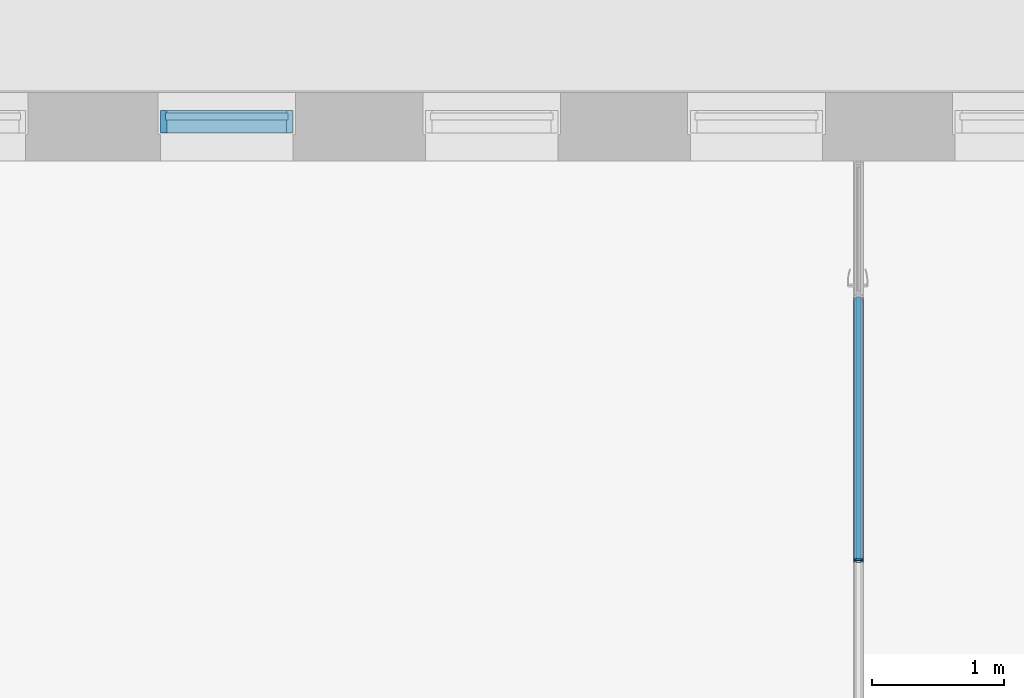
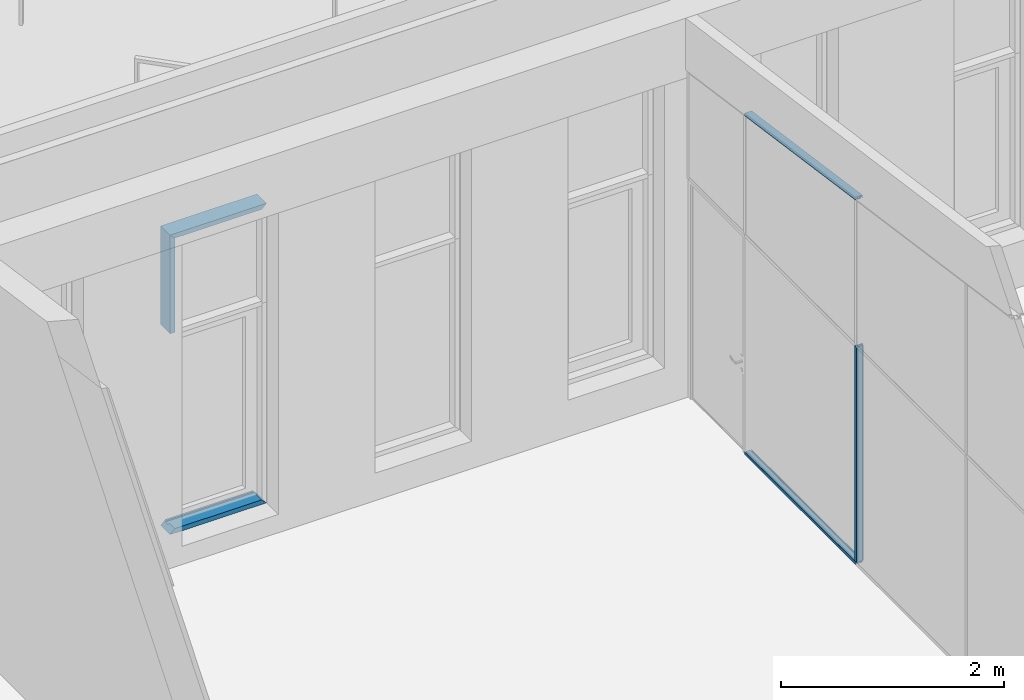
# One storey, part 20 of 246: 6 members, 2 elements without a shape of their own.
"""IFC2X3 building model written with IfcOpenShell, lengths in millimetres."""

from ifc_helpers import new_model, entity, si_unit, converted_unit, derived_unit, money_unit, direction, frame, origin_with_axes, place, context, subcontext, project, spatial, faceted_brep, source, transform, mapped, material, material_list, type_object, element, aggregate, save


model = new_model("IFC2X3")

# Units and contexts
model_context = context("Model", 3, precision=0.01, world=origin_with_axes(), true_north=direction((0.0, 1.0)))
body_context = subcontext(model_context, "Body", "Model", "MODEL_VIEW")
ifc_project = project(units=[si_unit("LENGTHUNIT", "METRE", prefix="MILLI"), si_unit("AREAUNIT", "SQUARE_METRE"), si_unit("VOLUMEUNIT", "CUBIC_METRE"), converted_unit("PLANEANGLEUNIT", "DEGREE", entity("IfcPlaneAngleMeasure", 0.0174532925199), si_unit("PLANEANGLEUNIT", "RADIAN"), dimensions=[0, 0, 0, 0, 0, 0, 0]), si_unit("SOLIDANGLEUNIT", "STERADIAN"), money_unit("EUR"), converted_unit("TIMEUNIT", "Year", entity("IfcTimeMeasure", 31556926.0), si_unit("TIMEUNIT", "SECOND"), dimensions=[0, 0, 1, 0, 0, 0, 0]), si_unit("MASSUNIT", "GRAM", prefix="KILO"), si_unit("THERMODYNAMICTEMPERATUREUNIT", "DEGREE_CELSIUS"), si_unit("LUMINOUSINTENSITYUNIT", "LUMEN"), si_unit("ENERGYUNIT", "JOULE", prefix="MEGA"), derived_unit("THERMALCONDUCTANCEUNIT", [(si_unit("POWERUNIT", "WATT"), 1), (si_unit("LENGTHUNIT", "METRE"), -1), (si_unit("THERMODYNAMICTEMPERATUREUNIT", "KELVIN"), -1)]), derived_unit("SPECIFICHEATCAPACITYUNIT", [(si_unit("ENERGYUNIT", "JOULE"), 1), (si_unit("MASSUNIT", "GRAM", prefix="KILO"), -1), (si_unit("THERMODYNAMICTEMPERATUREUNIT", "KELVIN"), -1)]), derived_unit("MASSDENSITYUNIT", [(si_unit("MASSUNIT", "GRAM", prefix="KILO"), 1), (si_unit("VOLUMEUNIT", "CUBIC_METRE"), -1)])], contexts=[model_context])

# Site, building, storey
site_placement = place(None, origin_with_axes())
site = spatial("IfcSite", under=ifc_project, at=site_placement, Name="L.Koidula tn 11b", CompositionType="ELEMENT")
building_placement = place(site_placement, origin_with_axes())
building = spatial("IfcBuilding", under=site, at=building_placement, Name="Rakvere Riigigümnaasium", CompositionType="ELEMENT")
storey_placement = place(building_placement, origin_with_axes())
storey = spatial("IfcBuildingStorey", under=building, at=storey_placement, Name="1.korrus 0,00", CompositionType="ELEMENT", Elevation=0.0)

# Curtain wall, members
curtain_wall_type = type_object("IfcCurtainWallType", Name="Curtain Wall Type", PredefinedType="NOTDEFINED")
curtain_wall_1_placement = place(storey_placement, frame((28069.5354311, 71934.4519938, 200.0), z_axis=(0.0, 0.0, 1.0), x_axis=(1.0, 0.0, 0.0)))
curtain_wall_1 = element("IfcCurtainWall", 1, at=curtain_wall_1_placement, inside=storey, type_object=curtain_wall_type, Name="KLF-08-04")
ifc_material_1 = material(Name="Alumiiniumprofiil (RAL 7021)")
member_type_1 = type_object("IfcMemberType", Name="Boundary Frame 50 x 170", PredefinedType="MULLION")
shared_shape_1 = source(origin_with_axes(), body_context, "Body", "Brep", [
    faceted_brep([(37.0, -26.0, 1043.00003141), (37.0, 26.0, 1043.00003141), (50.0, 26.0, 1030.00003141), (50.0, 46.0, 1030.00003141), (0.0, 46.0, 1080.00003141), (0.0, -124.0, 1080.00003141), (50.0, -124.0, 1030.00003141), (50.0, -26.0, 1030.00003141), (37.0, -26.0, 0.0), (37.0, 26.0, 0.0), (50.0, 26.0, 0.0), (50.0, 46.0, 0.0), (0.0, 46.0, 0.0), (0.0, -124.0, 0.0), (50.0, -124.0, 0.0), (50.0, -26.0, 0.0)], [[[0, 1, 2, 3, 4, 5, 6, 7]], [[1, 0, 8, 9]], [[10, 2, 1, 9]], [[2, 10, 11, 3]], [[12, 4, 3, 11]], [[13, 5, 4, 12]], [[14, 6, 5, 13]], [[15, 7, 6, 14]], [[0, 7, 15, 8]], [[8, 15, 14, 13, 12, 11, 10, 9]]]),
])
member_1_placement = place(curtain_wall_1_placement, frame((-500.000022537, 0.0, 2200.00007713), z_axis=(0.0, 0.0, 1.0), x_axis=(-1.0, 0.0, 0.0)))
member_1 = element("IfcMember", 2, at=member_1_placement, type_object=member_type_1, material=ifc_material_1, Name="KLF-08-47-Profiilid", ObjectType="MULLION", context=body_context, shape_type="MappedRepresentation", body=[
    mapped(shared_shape_1, transform((0.0, 0.0, 0.0), x_axis=(-1.0, 0.0, 0.0), y_axis=(0.0, -1.0, 0.0), z_axis=(0.0, 0.0, 1.0))),
])
shared_shape_2 = source(origin_with_axes(), body_context, "Body", "Brep", [
    faceted_brep([(-37.0, -26.0, 963.000201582), (-50.0, -26.0, 950.00020105), (-50.0, -124.0, 950.00020105), (0.0, -124.0, 1000.0002031), (0.0, 46.0, 1000.0002031), (-50.0, 46.0, 950.00020105), (-50.0, 26.0, 950.00020105), (-37.0, 26.0, 963.000201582), (-37.0, -26.0, 37.0), (-50.0, -26.0, 50.0), (-50.0, -124.0, 50.0), (0.0, -124.0, 0.0), (0.0, 46.0, 0.0), (-50.0, 46.0, 50.0), (-50.0, 26.0, 50.0), (-37.0, 26.0, 37.0)], [[[0, 1, 2, 3, 4, 5, 6, 7]], [[0, 8, 9, 1]], [[9, 10, 2, 1]], [[2, 10, 11, 3]], [[3, 11, 12, 4]], [[4, 12, 13, 5]], [[6, 5, 13, 14]], [[14, 15, 7, 6]], [[7, 15, 8, 0]], [[8, 15, 14, 13, 12, 11, 10, 9]]]),
])
member_2_placement = place(curtain_wall_1_placement, frame((500.000022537, 0.0, 3279.99997211), z_axis=(-1.0, 0.0, 0.0), x_axis=(0.0, 0.0, -1.0)))
member_2 = element("IfcMember", 3, at=member_2_placement, type_object=member_type_1, material=ifc_material_1, Name="KLF-08-46-Profiilid", ObjectType="MULLION", context=body_context, shape_type="MappedRepresentation", body=[
    mapped(shared_shape_2, transform((0.0, 0.0, 0.0), x_axis=(-1.0, 0.0, 0.0), y_axis=(0.0, -1.0, 0.0), z_axis=(0.0, 0.0, 1.0))),
])
member_3_placement = place(curtain_wall_1_placement, frame((-500.000022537, 0.0, 0.0), z_axis=(1.0, 0.0, 0.0), x_axis=(0.0, 0.0, 1.0)))
member_3 = element("IfcMember", 4, at=member_3_placement, type_object=member_type_1, material=ifc_material_1, Name="KLF-08-43-Profiilid", ObjectType="MULLION", context=body_context, shape_type="MappedRepresentation", body=[
    mapped(shared_shape_2, transform((0.0, 0.0, 0.0), x_axis=(-1.0, 0.0, 0.0), y_axis=(0.0, -1.0, 0.0), z_axis=(0.0, 0.0, 1.0))),
])
aggregate(curtain_wall_1, [member_1, member_2, member_3])

curtain_wall_2_placement = place(storey_placement, frame((32835.0202258, 67589.2016838, 0.0), z_axis=(0.0, 0.0, 1.0), x_axis=(1.0, 0.0, 0.0)))
curtain_wall_2 = element("IfcCurtainWall", 5, at=curtain_wall_2_placement, inside=storey, type_object=curtain_wall_type, Name="SKLF-02")
ifc_material_2 = material(Name="Klaasvill")
ifc_material_3 = material(Name="Teras RAL7012")
ifc_material_list = material_list([ifc_material_2, ifc_material_3])
member_type_2 = type_object("IfcMemberType", Name="Boundary Frame 30 x 42", PredefinedType="MULLION")
shared_shape_3 = source(origin_with_axes(), body_context, "Body", "Brep", [
    faceted_brep([(7.49999990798, 15.000000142, -1.53444652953e-06), (13.8499999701, 15.000000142, -1.53444652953e-06), (13.8499999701, 15.000000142, 2007.53714433), (7.49999990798, 15.000000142, 2007.53714433), (7.49999990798, 29.0161444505, -1.53444652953e-06), (13.8499999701, 29.0161444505, -1.53444652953e-06), (13.8499999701, 29.0161444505, 2007.53714433), (7.49999990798, 29.0161444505, 2007.53714433)], [[[0, 1, 2, 3]], [[0, 4, 5, 1]], [[1, 5, 6, 2]], [[3, 2, 6, 7]], [[4, 0, 3, 7]], [[5, 4, 7, 6]]]),
    faceted_brep([(24.987414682, 29.0161444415, -1.53444652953e-06), (25.004489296, 27.0307503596, -1.53444652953e-06), (25.004489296, 27.0307503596, 2007.53714433), (24.987414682, 29.0161444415, 2007.53714433), (28.5126239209, 29.0161444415, -1.53444652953e-06), (28.7655837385, 28.0385325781, -1.53444652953e-06), (28.4955493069, 27.0307503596, -1.53444652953e-06), (27.75780152, 26.2930025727, -1.53444652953e-06), (26.7500193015, 26.0229681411, -1.53444652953e-06), (25.742237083, 26.2930025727, -1.53444652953e-06), (25.742237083, 26.2930025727, 2007.53714433), (26.7500193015, 26.0229681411, 2007.53714433), (27.75780152, 26.2930025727, 2007.53714433), (28.4955493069, 27.0307503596, 2007.53714433), (28.7655837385, 28.0385325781, 2007.53714433), (28.5126239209, 29.0161444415, 2007.53714433)], [[[0, 1, 2, 3]], [[0, 4, 5, 6, 7, 8, 9, 1]], [[1, 9, 10, 2]], [[3, 2, 10, 11, 12, 13, 14, 15]], [[4, 0, 3, 15]], [[5, 4, 15, 14]], [[6, 5, 14, 13]], [[7, 6, 13, 12]], [[8, 7, 12, 11]], [[9, 8, 11, 10]]]),
    faceted_brep([(7.49999990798, -24.9999997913, -1.53444652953e-06), (7.49999990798, -39.0161445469, -1.53444652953e-06), (7.49999990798, -39.0161445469, 2007.53714433), (7.49999990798, -24.9999997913, 2007.53714433), (13.8499999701, -24.9999997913, -1.53444652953e-06), (13.8499999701, -39.0161445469, -1.53444652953e-06), (13.8499999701, -39.0161445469, 2007.53714433), (13.8499999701, -24.9999997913, 2007.53714433)], [[[0, 1, 2, 3]], [[0, 4, 5, 1]], [[1, 5, 6, 2]], [[3, 2, 6, 7]], [[4, 0, 3, 7]], [[5, 4, 7, 6]]]),
    faceted_brep([(25.004489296, -37.0307503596, -1.53444652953e-06), (24.987414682, -39.0161444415, -1.53444652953e-06), (24.987414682, -39.0161444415, 2007.53714433), (25.004489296, -37.0307503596, 2007.53714433), (25.742237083, -36.2930025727, -1.53444652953e-06), (26.7500193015, -36.0229681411, -1.53444652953e-06), (27.75780152, -36.2930025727, -1.53444652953e-06), (28.4955493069, -37.0307503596, -1.53444652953e-06), (28.7655837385, -38.0385325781, -1.53444652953e-06), (28.5126239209, -39.0161444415, -1.53444652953e-06), (28.5126239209, -39.0161444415, 2007.53714433), (28.7655837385, -38.0385325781, 2007.53714433), (28.4955493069, -37.0307503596, 2007.53714433), (27.75780152, -36.2930025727, 2007.53714433), (26.7500193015, -36.0229681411, 2007.53714433), (25.742237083, -36.2930025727, 2007.53714433)], [[[0, 1, 2, 3]], [[0, 4, 5, 6, 7, 8, 9, 1]], [[1, 9, 10, 2]], [[3, 2, 10, 11, 12, 13, 14, 15]], [[4, 0, 3, 15]], [[5, 4, 15, 14]], [[6, 5, 14, 13]], [[7, 6, 13, 12]], [[8, 7, 12, 11]], [[9, 8, 11, 10]]]),
    faceted_brep([(0.0, -22.0000000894, -1.53444652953e-06), (29.5999996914, -22.0000000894, -1.53444652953e-06), (29.5999996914, -22.0000000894, 2007.53714433), (0.0, -22.0000000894, 2007.53714433), (0.0, 12.0000000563, -1.53444652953e-06), (29.5999996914, 12.0000000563, -1.53444652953e-06), (1.9999999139, 10.0000001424, -1.53444652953e-06), (1.9999999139, -20.0000001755, -1.53444652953e-06), (18.7999996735, -20.0000001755, -1.53444652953e-06), (18.7999996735, 10.0000001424, -1.53444652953e-06), (29.5999996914, 12.0000000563, 2007.53714433), (0.0, 12.0000000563, 2007.53714433), (1.9999999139, 10.0000001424, 2007.53714433), (18.7999996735, 10.0000001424, 2007.53714433), (18.7999996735, -20.0000001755, 2007.53714433), (1.9999999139, -20.0000001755, 2007.53714433)], [[[0, 1, 2, 3]], [[0, 4, 5, 1], [6, 7, 8, 9]], [[1, 5, 10, 2]], [[3, 2, 10, 11], [12, 13, 14, 15]], [[4, 0, 3, 11]], [[5, 4, 11, 10]], [[7, 6, 12, 15]], [[8, 7, 15, 14]], [[9, 8, 14, 13]], [[6, 9, 13, 12]]]),
    faceted_brep([(0.0, 12.0, -1.53444652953e-06), (29.5999996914, 12.0000000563, -1.53444652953e-06), (29.5999996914, 12.0000000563, 2007.53714433), (0.0, 12.0, 2007.53714433), (0.0, 32.0, -1.53444652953e-06), (30.0000193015, 32.0, -1.53444652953e-06), (30.0000193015, 29.0161444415, -1.53444652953e-06), (28.5126239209, 29.0161444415, -1.53444652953e-06), (24.987414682, 29.0161444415, -1.53444652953e-06), (13.8499999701, 29.0161444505, -1.53444652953e-06), (7.49999999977, 29.0161444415, -1.53444652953e-06), (7.49999999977, 15.0, -1.53444652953e-06), (13.8499999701, 15.000000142, -1.53444652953e-06), (30.0000193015, 15.0, -1.53444652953e-06), (30.0000193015, 12.0, -1.53444652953e-06), (30.0000193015, 12.0, 2007.53714433), (30.0000193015, 15.0, 2007.53714433), (13.8499999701, 15.000000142, 2007.53714433), (7.49999999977, 15.0, 2007.53714433), (7.49999999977, 29.0161444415, 2007.53714433), (13.8499999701, 29.0161444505, 2007.53714433), (24.987414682, 29.0161444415, 2007.53714433), (28.5126239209, 29.0161444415, 2007.53714433), (30.0000193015, 29.0161444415, 2007.53714433), (30.0000193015, 32.0, 2007.53714433), (0.0, 32.0, 2007.53714433)], [[[0, 1, 2, 3]], [[0, 4, 5, 6, 7, 8, 9, 10, 11, 12, 13, 14, 1]], [[1, 14, 15, 2]], [[3, 2, 15, 16, 17, 18, 19, 20, 21, 22, 23, 24, 25]], [[4, 0, 3, 25]], [[5, 4, 25, 24]], [[6, 5, 24, 23]], [[7, 6, 23, 22]], [[8, 7, 22, 21]], [[9, 8, 21, 20]], [[10, 9, 20, 19]], [[11, 10, 19, 18]], [[12, 11, 18, 17]], [[13, 12, 17, 16]], [[14, 13, 16, 15]]]),
    faceted_brep([(0.0, -22.0, -1.53444652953e-06), (0.0, -42.0, -1.53444652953e-06), (0.0, -42.0, 2007.53714433), (0.0, -22.0, 2007.53714433), (29.5999996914, -22.0000000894, -1.53444652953e-06), (30.0000193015, -22.0, -1.53444652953e-06), (30.0000193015, -25.0, -1.53444652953e-06), (13.8499999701, -24.9999997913, -1.53444652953e-06), (7.49999999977, -25.0, -1.53444652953e-06), (7.49999999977, -39.0161444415, -1.53444652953e-06), (13.8499999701, -39.0161445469, -1.53444652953e-06), (24.987414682, -39.0161444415, -1.53444652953e-06), (28.5126239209, -39.0161444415, -1.53444652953e-06), (30.0000193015, -39.0161444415, -1.53444652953e-06), (30.0000193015, -42.0, -1.53444652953e-06), (30.0000193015, -42.0, 2007.53714433), (30.0000193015, -39.0161444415, 2007.53714433), (28.5126239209, -39.0161444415, 2007.53714433), (24.987414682, -39.0161444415, 2007.53714433), (13.8499999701, -39.0161445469, 2007.53714433), (7.49999999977, -39.0161444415, 2007.53714433), (7.49999999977, -25.0, 2007.53714433), (13.8499999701, -24.9999997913, 2007.53714433), (30.0000193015, -25.0, 2007.53714433), (30.0000193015, -22.0, 2007.53714433), (29.5999996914, -22.0000000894, 2007.53714433)], [[[0, 1, 2, 3]], [[0, 4, 5, 6, 7, 8, 9, 10, 11, 12, 13, 14, 1]], [[1, 14, 15, 2]], [[3, 2, 15, 16, 17, 18, 19, 20, 21, 22, 23, 24, 25]], [[4, 0, 3, 25]], [[5, 4, 25, 24]], [[6, 5, 24, 23]], [[7, 6, 23, 22]], [[8, 7, 22, 21]], [[9, 8, 21, 20]], [[10, 9, 20, 19]], [[11, 10, 19, 18]], [[12, 11, 18, 17]], [[13, 12, 17, 16]], [[14, 13, 16, 15]]]),
])
member_4_placement = place(curtain_wall_2_placement, frame((0.0, 993.75, 4019.58660947), z_axis=(0.0, 0.99001904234, -0.140933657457), x_axis=(0.0, -0.140933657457, -0.99001904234)))
member_4 = element("IfcMember", 6, at=member_4_placement, type_object=member_type_2, material=ifc_material_list, Name="SKLF-17-raam", ObjectType="MULLION", context=body_context, shape_type="MappedRepresentation", body=[
    mapped(shared_shape_3, transform((0.0, 0.0, 0.0))),
])
member_type_3 = type_object("IfcMemberType", Name="Siseklaasfassaad-Vaheprofiil-Doubleline30 34 x 42", PredefinedType="MULLION")
shared_shape_4 = source(origin_with_axes(), body_context, "Body", "Brep", [
    faceted_brep([(15.5126239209, 29.0161444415, 2384.48737608), (15.7655837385, 28.0385325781, 2384.23441626), (15.7655837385, 28.0385325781, 30.0000193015), (15.5126239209, 29.0161444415, 30.0000193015), (15.4955493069, 27.0307503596, 2384.50445069), (11.987414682, 29.0161444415, 2388.01258532), (12.004489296, 27.0307503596, 2387.9955107), (12.742237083, 26.2930025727, 2387.25776292), (13.7500193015, 26.0229681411, 2386.2499807), (14.75780152, 26.2930025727, 2385.24219848), (15.4955493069, 27.0307503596, 30.0000193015), (14.75780152, 26.2930025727, 30.0000193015), (13.7500193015, 26.0229681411, 30.0000193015), (12.742237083, 26.2930025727, 30.0000193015), (12.004489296, 27.0307503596, 30.0000193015), (11.987414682, 29.0161444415, 30.0000193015)], [[[0, 1, 2, 3]], [[4, 1, 0, 5, 6, 7, 8, 9]], [[1, 4, 10, 2]], [[2, 10, 11, 12, 13, 14, 15, 3]], [[5, 0, 3, 15]], [[6, 5, 15, 14]], [[7, 6, 14, 13]], [[8, 7, 13, 12]], [[9, 8, 12, 11]], [[4, 9, 11, 10]]]),
    faceted_brep([(15.4955493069, -37.0307503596, 2384.50445069), (15.5126239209, -39.0161444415, 2384.48737608), (15.5126239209, -39.0161444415, 30.0000193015), (15.4955493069, -37.0307503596, 30.0000193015), (11.987414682, -39.0161444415, 2388.01258532), (14.75780152, -36.2930025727, 2385.24219848), (13.7500193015, -36.0229681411, 2386.2499807), (12.742237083, -36.2930025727, 2387.25776292), (12.004489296, -37.0307503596, 2387.9955107), (11.7344548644, -38.0385325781, 2388.26554514), (11.987414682, -39.0161444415, 30.0000193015), (11.7344548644, -38.0385325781, 30.0000193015), (12.004489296, -37.0307503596, 30.0000193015), (12.742237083, -36.2930025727, 30.0000193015), (13.7500193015, -36.0229681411, 30.0000193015), (14.75780152, -36.2930025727, 30.0000193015)], [[[0, 1, 2, 3]], [[4, 1, 0, 5, 6, 7, 8, 9]], [[1, 4, 10, 2]], [[2, 10, 11, 12, 13, 14, 15, 3]], [[5, 0, 3, 15]], [[6, 5, 15, 14]], [[7, 6, 14, 13]], [[8, 7, 13, 12]], [[9, 8, 12, 11]], [[4, 9, 11, 10]]]),
    faceted_brep([(-11.987414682, 29.0161444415, 2388.01258532), (-11.7344548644, 28.0385325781, 2388.26554514), (-11.7344548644, 28.0385325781, 30.0000193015), (-11.987414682, 29.0161444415, 30.0000193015), (-12.004489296, 27.0307503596, 2387.9955107), (-15.7655837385, 28.0385325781, 2384.23441626), (-15.4955493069, 27.0307503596, 2384.50445069), (-14.75780152, 26.2930025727, 2385.24219848), (-13.7500193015, 26.0229681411, 2386.2499807), (-12.742237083, 26.2930025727, 2387.25776292), (-12.004489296, 27.0307503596, 30.0000193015), (-12.742237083, 26.2930025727, 30.0000193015), (-13.7500193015, 26.0229681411, 30.0000193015), (-14.75780152, 26.2930025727, 30.0000193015), (-15.4955493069, 27.0307503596, 30.0000193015), (-15.7655837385, 28.0385325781, 30.0000193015)], [[[0, 1, 2, 3]], [[4, 1, 0, 5, 6, 7, 8, 9]], [[1, 4, 10, 2]], [[2, 10, 11, 12, 13, 14, 15, 3]], [[5, 0, 3, 15]], [[6, 5, 15, 14]], [[7, 6, 14, 13]], [[8, 7, 13, 12]], [[9, 8, 12, 11]], [[4, 9, 11, 10]]]),
    faceted_brep([(-12.004489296, -37.0307503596, 2387.9955107), (-11.7344548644, -38.0385325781, 2388.26554514), (-11.7344548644, -38.0385325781, 30.0000193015), (-12.004489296, -37.0307503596, 30.0000193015), (-11.987414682, -39.0161444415, 2388.01258532), (-12.742237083, -36.2930025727, 2387.25776292), (-13.7500193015, -36.0229681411, 2386.2499807), (-14.75780152, -36.2930025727, 2385.24219848), (-15.4955493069, -37.0307503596, 2384.50445069), (-15.5126239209, -39.0161444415, 2384.48737608), (-11.987414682, -39.0161444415, 30.0000193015), (-15.5126239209, -39.0161444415, 30.0000193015), (-15.4955493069, -37.0307503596, 30.0000193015), (-14.75780152, -36.2930025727, 30.0000193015), (-13.7500193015, -36.0229681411, 30.0000193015), (-12.742237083, -36.2930025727, 30.0000193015)], [[[0, 1, 2, 3]], [[4, 1, 0, 5, 6, 7, 8, 9]], [[1, 4, 10, 2]], [[2, 10, 11, 12, 13, 14, 15, 3]], [[5, 0, 3, 15]], [[6, 5, 15, 14]], [[7, 6, 14, 13]], [[8, 7, 13, 12]], [[9, 8, 12, 11]], [[4, 9, 11, 10]]]),
    faceted_brep([(4.0000003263, -20.0000001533, 2395.99999967), (4.0000003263, 10.0000001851, 2395.99999967), (4.0000003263, 10.0000001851, 30.0000193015), (4.0000003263, -20.0000001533, 30.0000193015), (14.8000003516, -22.0000000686, 2385.19999965), (14.8000003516, 12.0000001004, 2385.19999965), (0.0, 12.0000001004, 2400.0), (0.0, 10.0000001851, 2400.0), (0.0, -20.0000001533, 2400.0), (0.0, -22.0000000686, 2400.0), (-12.8000002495, 10.0000001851, 2387.19999975), (-12.8000002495, 10.0000001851, 30.0000193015), (14.8000003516, -22.0000000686, 30.0000193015), (-3.05044456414e-07, -22.0000000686, 30.0000193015), (-14.8000001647, -22.0000000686, 30.0000193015), (-14.8000001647, 12.0000001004, 30.0000193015), (-3.05044456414e-07, 12.0000001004, 30.0000193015), (14.8000003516, 12.0000001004, 30.0000193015), (-12.8000002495, -20.0000001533, 30.0000193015), (-12.8000002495, -20.0000001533, 2387.19999975), (-14.8000001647, 12.0000001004, 2385.19999984), (-14.8000001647, -22.0000000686, 2385.19999984)], [[[0, 1, 2, 3]], [[4, 5, 6, 7, 1, 0, 8, 9]], [[7, 10, 11, 2, 1]], [[12, 13, 14, 15, 16, 17], [2, 11, 18, 3]], [[8, 0, 3, 18, 19]], [[5, 4, 12, 17]], [[6, 5, 17, 16]], [[6, 20, 21, 9, 8, 19, 10, 7]], [[4, 9, 13, 12]], [[10, 19, 18, 11]], [[9, 21, 14, 13]], [[21, 20, 15, 14]], [[20, 6, 16, 15]]]),
    faceted_brep([(0.0, 32.0000000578, 2400.0), (17.0000193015, 32.0000000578, 2382.9999807), (17.0000193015, 32.0000000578, 30.0000193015), (0.0, 32.0000000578, 30.0000193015), (17.0000193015, 29.0161446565, 2382.9999807), (0.0, 12.0, 2400.0), (14.8000003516, 12.0000001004, 2385.19999965), (17.0000193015, 12.0, 2382.9999807), (17.0000193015, 15.0000000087, 2382.9999807), (7.50000002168, 15.0000000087, 2392.49999998), (7.50000002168, 29.0161446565, 2392.49999998), (11.987414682, 29.0161444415, 2388.01258532), (15.5126239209, 29.0161444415, 2384.48737608), (17.0000193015, 29.0161446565, 30.0000193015), (15.5126239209, 29.0161444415, 30.0000193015), (11.987414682, 29.0161444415, 30.0000193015), (7.50000002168, 29.0161446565, 30.0000193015), (7.50000002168, 15.0000000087, 30.0000193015), (17.0000193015, 15.0000000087, 30.0000193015), (17.0000193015, 12.0, 30.0000193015), (14.8000003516, 12.0000001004, 30.0000193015), (0.0, 12.0, 30.0000193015)], [[[0, 1, 2, 3]], [[4, 1, 0, 5, 6, 7, 8, 9, 10, 11, 12]], [[1, 4, 13, 2]], [[2, 13, 14, 15, 16, 17, 18, 19, 20, 21, 3]], [[5, 0, 3, 21]], [[6, 5, 21, 20]], [[7, 6, 20, 19]], [[8, 7, 19, 18]], [[9, 8, 18, 17]], [[10, 9, 17, 16]], [[11, 10, 16, 15]], [[12, 11, 15, 14]], [[4, 12, 14, 13]]]),
    faceted_brep([(14.8000003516, -22.0000000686, 2385.19999965), (17.0000193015, -21.9999999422, 2382.9999807), (17.0000193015, -21.9999999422, 30.0000193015), (14.8000003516, -22.0000000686, 30.0000193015), (17.0000193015, -24.9999999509, 2382.9999807), (0.0, -21.9999999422, 2400.0), (0.0, -42.0, 2400.0), (17.0000193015, -42.0, 2382.9999807), (17.0000193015, -39.0161445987, 2382.9999807), (15.5126239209, -39.0161444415, 2384.48737608), (11.987414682, -39.0161444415, 2388.01258532), (7.50000002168, -39.0161445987, 2392.49999998), (7.50000002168, -24.9999999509, 2392.49999998), (17.0000193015, -24.9999999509, 30.0000193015), (7.50000002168, -24.9999999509, 30.0000193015), (7.50000002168, -39.0161445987, 30.0000193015), (11.987414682, -39.0161444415, 30.0000193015), (15.5126239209, -39.0161444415, 30.0000193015), (17.0000193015, -39.0161445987, 30.0000193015), (17.0000193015, -42.0, 30.0000193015), (0.0, -42.0, 30.0000193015), (0.0, -21.9999999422, 30.0000193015)], [[[0, 1, 2, 3]], [[4, 1, 0, 5, 6, 7, 8, 9, 10, 11, 12]], [[1, 4, 13, 2]], [[2, 13, 14, 15, 16, 17, 18, 19, 20, 21, 3]], [[5, 0, 3, 21]], [[6, 5, 21, 20]], [[7, 6, 20, 19]], [[8, 7, 19, 18]], [[9, 8, 18, 17]], [[10, 9, 17, 16]], [[11, 10, 16, 15]], [[12, 11, 15, 14]], [[4, 12, 14, 13]]]),
    faceted_brep([(-17.0000193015, 32.0, 2382.9999807), (0.0, 32.0, 2400.0), (0.0, 32.0, 30.0000193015), (-17.0000193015, 32.0, 30.0000193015), (-17.0000193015, 29.0161444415, 2382.9999807), (-15.5126239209, 29.0161444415, 2384.48737608), (-11.987414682, 29.0161444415, 2388.01258532), (-7.49999999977, 29.0161444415, 2392.5), (-7.49999999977, 15.0, 2392.5), (-17.0000193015, 15.0, 2382.9999807), (-17.0000193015, 12.0, 2382.9999807), (-14.8000001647, 12.0000001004, 2385.19999984), (0.0, 12.0, 2400.0), (0.0, 12.0, 30.0000193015), (-14.8000001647, 12.0000001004, 30.0000193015), (-17.0000193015, 12.0, 30.0000193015), (-17.0000193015, 15.0, 30.0000193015), (-7.49999999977, 15.0, 30.0000193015), (-7.49999999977, 29.0161444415, 30.0000193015), (-11.987414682, 29.0161444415, 30.0000193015), (-15.5126239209, 29.0161444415, 30.0000193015), (-17.0000193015, 29.0161444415, 30.0000193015)], [[[0, 1, 2, 3]], [[1, 0, 4, 5, 6, 7, 8, 9, 10, 11, 12]], [[1, 12, 13, 2]], [[2, 13, 14, 15, 16, 17, 18, 19, 20, 21, 3]], [[4, 0, 3, 21]], [[5, 4, 21, 20]], [[6, 5, 20, 19]], [[7, 6, 19, 18]], [[8, 7, 18, 17]], [[9, 8, 17, 16]], [[10, 9, 16, 15]], [[11, 10, 15, 14]], [[12, 11, 14, 13]]]),
    faceted_brep([(-14.8000001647, -22.0000000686, 2385.19999984), (0.0, -22.0, 2400.0), (0.0, -22.0, 30.0000193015), (-14.8000001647, -22.0000000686, 30.0000193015), (-17.0000193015, -22.0, 2382.9999807), (-17.0000193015, -25.0, 2382.9999807), (-7.49999999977, -25.0, 2392.5), (-7.49999999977, -39.0161444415, 2392.5), (-11.987414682, -39.0161444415, 2388.01258532), (-15.5126239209, -39.0161444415, 2384.48737608), (-17.0000193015, -39.0161444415, 2382.9999807), (-17.0000193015, -42.0, 2382.9999807), (0.0, -42.0, 2400.0), (0.0, -42.0, 30.0000193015), (-17.0000193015, -42.0, 30.0000193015), (-17.0000193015, -39.0161444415, 30.0000193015), (-15.5126239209, -39.0161444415, 30.0000193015), (-11.987414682, -39.0161444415, 30.0000193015), (-7.49999999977, -39.0161444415, 30.0000193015), (-7.49999999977, -25.0, 30.0000193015), (-17.0000193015, -25.0, 30.0000193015), (-17.0000193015, -22.0, 30.0000193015)], [[[0, 1, 2, 3]], [[1, 0, 4, 5, 6, 7, 8, 9, 10, 11, 12]], [[1, 12, 13, 2]], [[2, 13, 14, 15, 16, 17, 18, 19, 20, 21, 3]], [[4, 0, 3, 21]], [[5, 4, 21, 20]], [[6, 5, 20, 19]], [[7, 6, 19, 18]], [[8, 7, 18, 17]], [[9, 8, 17, 16]], [[10, 9, 16, 15]], [[11, 10, 15, 14]], [[12, 11, 14, 13]]]),
])
member_5_placement = place(curtain_wall_2_placement, frame((0.0, 993.75, 0.0), z_axis=(0.0, 0.0, 1.0), x_axis=(0.0, 1.0, 0.0)))
member_5 = element("IfcMember", 7, at=member_5_placement, type_object=member_type_3, material=ifc_material_list, Name="Frame-Siseklaasf-051", ObjectType="MULLION", context=body_context, shape_type="MappedRepresentation", body=[
    mapped(shared_shape_4, transform((0.0, 0.0, 0.0))),
])
shared_shape_5 = source(origin_with_axes(), body_context, "Body", "Brep", [
    faceted_brep([(7.49999990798, 15.000000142, 0.0), (13.8499999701, 15.000000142, 0.0), (13.8499999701, 15.000000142, 1987.5), (7.49999990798, 15.000000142, 1987.5), (7.49999990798, 29.0161444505, 0.0), (13.8499999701, 29.0161444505, 0.0), (13.8499999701, 29.0161444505, 1987.5), (7.49999990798, 29.0161444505, 1987.5)], [[[0, 1, 2, 3]], [[0, 4, 5, 1]], [[1, 5, 6, 2]], [[3, 2, 6, 7]], [[4, 0, 3, 7]], [[5, 4, 7, 6]]]),
    faceted_brep([(24.987414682, 29.0161444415, 0.0), (25.004489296, 27.0307503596, 0.0), (25.004489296, 27.0307503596, 1987.5), (24.987414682, 29.0161444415, 1987.5), (28.5126239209, 29.0161444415, 0.0), (28.7655837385, 28.0385325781, 0.0), (28.4955493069, 27.0307503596, 0.0), (27.75780152, 26.2930025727, 0.0), (26.7500193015, 26.0229681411, 0.0), (25.742237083, 26.2930025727, 0.0), (25.742237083, 26.2930025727, 1987.5), (26.7500193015, 26.0229681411, 1987.5), (27.75780152, 26.2930025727, 1987.5), (28.4955493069, 27.0307503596, 1987.5), (28.7655837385, 28.0385325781, 1987.5), (28.5126239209, 29.0161444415, 1987.5)], [[[0, 1, 2, 3]], [[0, 4, 5, 6, 7, 8, 9, 1]], [[1, 9, 10, 2]], [[3, 2, 10, 11, 12, 13, 14, 15]], [[4, 0, 3, 15]], [[5, 4, 15, 14]], [[6, 5, 14, 13]], [[7, 6, 13, 12]], [[8, 7, 12, 11]], [[9, 8, 11, 10]]]),
    faceted_brep([(7.49999990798, -24.9999997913, 0.0), (7.49999990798, -39.0161445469, 0.0), (7.49999990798, -39.0161445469, 1987.5), (7.49999990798, -24.9999997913, 1987.5), (13.8499999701, -24.9999997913, 0.0), (13.8499999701, -39.0161445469, 0.0), (13.8499999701, -39.0161445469, 1987.5), (13.8499999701, -24.9999997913, 1987.5)], [[[0, 1, 2, 3]], [[0, 4, 5, 1]], [[1, 5, 6, 2]], [[3, 2, 6, 7]], [[4, 0, 3, 7]], [[5, 4, 7, 6]]]),
    faceted_brep([(25.004489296, -37.0307503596, 0.0), (24.987414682, -39.0161444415, 0.0), (24.987414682, -39.0161444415, 1987.5), (25.004489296, -37.0307503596, 1987.5), (25.742237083, -36.2930025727, 0.0), (26.7500193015, -36.0229681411, 0.0), (27.75780152, -36.2930025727, 0.0), (28.4955493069, -37.0307503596, 0.0), (28.7655837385, -38.0385325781, 0.0), (28.5126239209, -39.0161444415, 0.0), (28.5126239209, -39.0161444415, 1987.5), (28.7655837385, -38.0385325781, 1987.5), (28.4955493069, -37.0307503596, 1987.5), (27.75780152, -36.2930025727, 1987.5), (26.7500193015, -36.0229681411, 1987.5), (25.742237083, -36.2930025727, 1987.5)], [[[0, 1, 2, 3]], [[0, 4, 5, 6, 7, 8, 9, 1]], [[1, 9, 10, 2]], [[3, 2, 10, 11, 12, 13, 14, 15]], [[4, 0, 3, 15]], [[5, 4, 15, 14]], [[6, 5, 14, 13]], [[7, 6, 13, 12]], [[8, 7, 12, 11]], [[9, 8, 11, 10]]]),
    faceted_brep([(0.0, -22.0000000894, 0.0), (29.5999996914, -22.0000000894, 0.0), (29.5999996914, -22.0000000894, 1987.5), (0.0, -22.0000000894, 1987.5), (0.0, 12.0000000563, 0.0), (29.5999996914, 12.0000000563, 0.0), (1.9999999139, 10.0000001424, 0.0), (1.9999999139, -20.0000001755, 0.0), (18.7999996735, -20.0000001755, 0.0), (18.7999996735, 10.0000001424, 0.0), (29.5999996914, 12.0000000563, 1987.5), (0.0, 12.0000000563, 1987.5), (1.9999999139, 10.0000001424, 1987.5), (18.7999996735, 10.0000001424, 1987.5), (18.7999996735, -20.0000001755, 1987.5), (1.9999999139, -20.0000001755, 1987.5)], [[[0, 1, 2, 3]], [[0, 4, 5, 1], [6, 7, 8, 9]], [[1, 5, 10, 2]], [[3, 2, 10, 11], [12, 13, 14, 15]], [[4, 0, 3, 11]], [[5, 4, 11, 10]], [[7, 6, 12, 15]], [[8, 7, 15, 14]], [[9, 8, 14, 13]], [[6, 9, 13, 12]]]),
    faceted_brep([(0.0, 12.0, 0.0), (29.5999996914, 12.0000000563, 0.0), (29.5999996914, 12.0000000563, 1987.5), (0.0, 12.0, 1987.5), (0.0, 32.0, 0.0), (30.0000193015, 32.0, 0.0), (30.0000193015, 29.0161444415, 0.0), (28.5126239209, 29.0161444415, 0.0), (24.987414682, 29.0161444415, 0.0), (13.8499999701, 29.0161444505, 0.0), (7.49999999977, 29.0161444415, 0.0), (7.49999999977, 15.0, 0.0), (13.8499999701, 15.000000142, 0.0), (30.0000193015, 15.0, 0.0), (30.0000193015, 12.0, 0.0), (30.0000193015, 12.0, 1987.5), (30.0000193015, 15.0, 1987.5), (13.8499999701, 15.000000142, 1987.5), (7.49999999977, 15.0, 1987.5), (7.49999999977, 29.0161444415, 1987.5), (13.8499999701, 29.0161444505, 1987.5), (24.987414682, 29.0161444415, 1987.5), (28.5126239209, 29.0161444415, 1987.5), (30.0000193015, 29.0161444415, 1987.5), (30.0000193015, 32.0, 1987.5), (0.0, 32.0, 1987.5)], [[[0, 1, 2, 3]], [[0, 4, 5, 6, 7, 8, 9, 10, 11, 12, 13, 14, 1]], [[1, 14, 15, 2]], [[3, 2, 15, 16, 17, 18, 19, 20, 21, 22, 23, 24, 25]], [[4, 0, 3, 25]], [[5, 4, 25, 24]], [[6, 5, 24, 23]], [[7, 6, 23, 22]], [[8, 7, 22, 21]], [[9, 8, 21, 20]], [[10, 9, 20, 19]], [[11, 10, 19, 18]], [[12, 11, 18, 17]], [[13, 12, 17, 16]], [[14, 13, 16, 15]]]),
    faceted_brep([(0.0, -22.0, 0.0), (0.0, -42.0, 0.0), (0.0, -42.0, 1987.5), (0.0, -22.0, 1987.5), (29.5999996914, -22.0000000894, 0.0), (30.0000193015, -22.0, 0.0), (30.0000193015, -25.0, 0.0), (13.8499999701, -24.9999997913, 0.0), (7.49999999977, -25.0, 0.0), (7.49999999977, -39.0161444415, 0.0), (13.8499999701, -39.0161445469, 0.0), (24.987414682, -39.0161444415, 0.0), (28.5126239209, -39.0161444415, 0.0), (30.0000193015, -39.0161444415, 0.0), (30.0000193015, -42.0, 0.0), (30.0000193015, -42.0, 1987.5), (30.0000193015, -39.0161444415, 1987.5), (28.5126239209, -39.0161444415, 1987.5), (24.987414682, -39.0161444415, 1987.5), (13.8499999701, -39.0161445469, 1987.5), (7.49999999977, -39.0161444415, 1987.5), (7.49999999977, -25.0, 1987.5), (13.8499999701, -24.9999997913, 1987.5), (30.0000193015, -25.0, 1987.5), (30.0000193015, -22.0, 1987.5), (29.5999996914, -22.0000000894, 1987.5)], [[[0, 1, 2, 3]], [[0, 4, 5, 6, 7, 8, 9, 10, 11, 12, 13, 14, 1]], [[1, 14, 15, 2]], [[3, 2, 15, 16, 17, 18, 19, 20, 21, 22, 23, 24, 25]], [[4, 0, 3, 25]], [[5, 4, 25, 24]], [[6, 5, 24, 23]], [[7, 6, 23, 22]], [[8, 7, 22, 21]], [[9, 8, 21, 20]], [[10, 9, 20, 19]], [[11, 10, 19, 18]], [[12, 11, 18, 17]], [[13, 12, 17, 16]], [[14, 13, 16, 15]]]),
])
member_6_placement = place(curtain_wall_2_placement, frame((0.0, 2981.25, 0.0), z_axis=(0.0, -1.0, 0.0), x_axis=(0.0, 0.0, 1.0)))
member_6 = element("IfcMember", 8, at=member_6_placement, type_object=member_type_2, material=ifc_material_list, Name="SKLF-04-raam", ObjectType="MULLION", context=body_context, shape_type="MappedRepresentation", body=[
    mapped(shared_shape_5, transform((0.0, 0.0, 0.0))),
])
aggregate(curtain_wall_2, [member_6, member_5, member_4])

save(model, "model.ifc")
